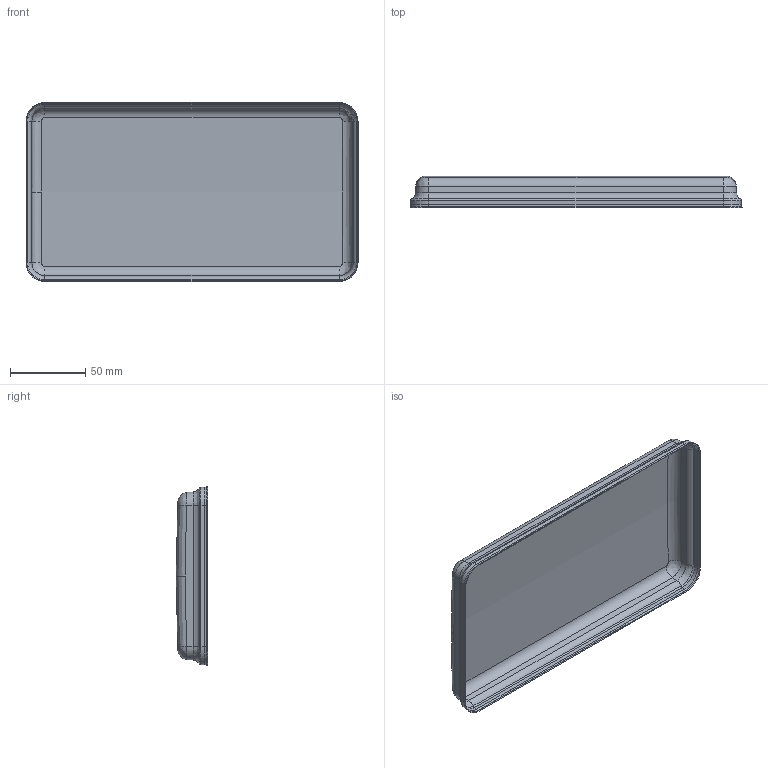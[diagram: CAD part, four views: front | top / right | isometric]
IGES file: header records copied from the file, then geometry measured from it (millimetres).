
Start section: SolidWorks IGES file using analytic representation for surfaces
Global section: file name: R:\USERS\btennant\case_iges\1060\1060-TOP-002.IGS; native system: SolidWorks 2005 by SolidWorks Corporation; preprocessor: SolidWorks 2005 by SolidWorks Corporation; author: btennant; date: 050329.100223; units: inch
Bounding box: 220.47 x 21.04 x 118.87 mm (x, y, z)
Surface area: 35498.3 mm2 (no closed solid volume)
Topology: 0 solids, 0 shells, 66 faces, 307 edges, 307 vertices
Faces by surface type: bspline 35, revolution 31
